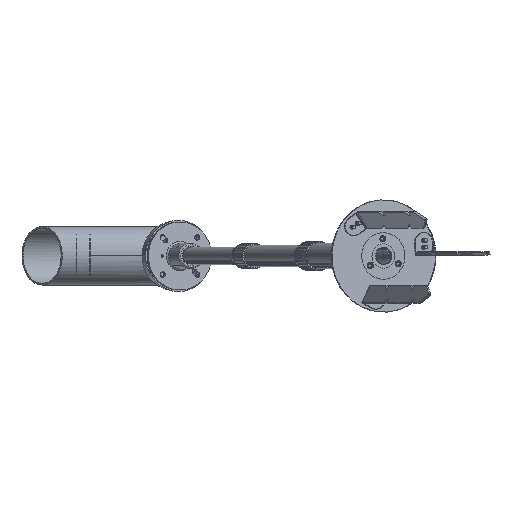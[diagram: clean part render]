
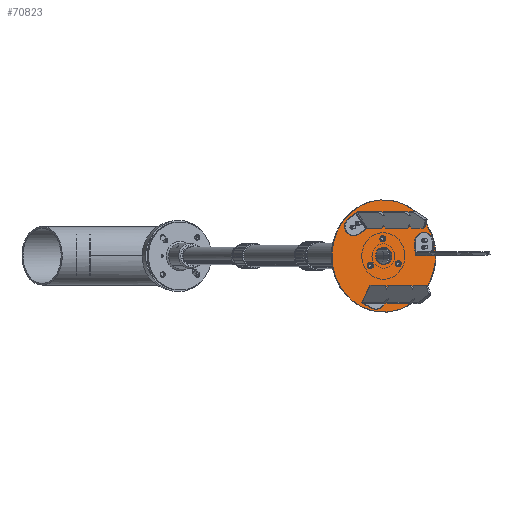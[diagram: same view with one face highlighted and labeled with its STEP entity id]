
A CAD part, front view. The second image highlights one B-rep face of the part: STEP entity #70823.
In plain terms, the highlighted planar face has unit normal (0.374, -0.927, 0) as drawn and (0, 0, 1) by its records, which use the part's own axes.
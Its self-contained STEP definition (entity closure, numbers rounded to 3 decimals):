
#70120=CARTESIAN_POINT('',(0.,0.,4.));
#70121=DIRECTION('',(0.,0.,-1.));
#70122=DIRECTION('',(1.,0.,0.));
#70123=AXIS2_PLACEMENT_3D('',#70120,#70121,#70122);
#70125=CARTESIAN_POINT('',(0.,0.,4.));
#70126=DIRECTION('',(0.,0.,-1.));
#70127=DIRECTION('',(-1.,0.,0.));
#70128=AXIS2_PLACEMENT_3D('',#70125,#70126,#70127);
#70130=CARTESIAN_POINT('',(-50.,-7.,4.));
#70131=DIRECTION('',(0.,0.,1.));
#70132=DIRECTION('',(1.,0.,0.));
#70133=AXIS2_PLACEMENT_3D('',#70130,#70131,#70132);
#70135=CARTESIAN_POINT('',(-50.,-7.,4.));
#70136=DIRECTION('',(0.,0.,1.));
#70137=DIRECTION('',(-1.,0.,0.));
#70138=AXIS2_PLACEMENT_3D('',#70135,#70136,#70137);
#70140=CARTESIAN_POINT('',(-50.,-15.,4.));
#70141=DIRECTION('',(0.,0.,1.));
#70142=DIRECTION('',(1.,0.,0.));
#70143=AXIS2_PLACEMENT_3D('',#70140,#70141,#70142);
#70145=CARTESIAN_POINT('',(-50.,-15.,4.));
#70146=DIRECTION('',(0.,0.,1.));
#70147=DIRECTION('',(-1.,0.,0.));
#70148=AXIS2_PLACEMENT_3D('',#70145,#70146,#70147);
#70150=CARTESIAN_POINT('',(31.062,-39.801,4.));
#70151=DIRECTION('',(0.,0.,1.));
#70152=DIRECTION('',(-0.5,0.866,0.));
#70153=AXIS2_PLACEMENT_3D('',#70150,#70151,#70152);
#70155=CARTESIAN_POINT('',(31.062,-39.801,4.));
#70156=DIRECTION('',(0.,0.,1.));
#70157=DIRECTION('',(0.5,-0.866,0.));
#70158=AXIS2_PLACEMENT_3D('',#70155,#70156,#70157);
#70160=CARTESIAN_POINT('',(37.99,-35.801,4.));
#70161=DIRECTION('',(0.,0.,1.));
#70162=DIRECTION('',(-0.5,0.866,0.));
#70163=AXIS2_PLACEMENT_3D('',#70160,#70161,#70162);
#70165=CARTESIAN_POINT('',(37.99,-35.801,4.));
#70166=DIRECTION('',(0.,0.,1.));
#70167=DIRECTION('',(0.5,-0.866,0.));
#70168=AXIS2_PLACEMENT_3D('',#70165,#70166,#70167);
#70170=CARTESIAN_POINT('',(18.938,46.801,4.));
#70171=DIRECTION('',(0.,0.,1.));
#70172=DIRECTION('',(-0.5,-0.866,0.));
#70173=AXIS2_PLACEMENT_3D('',#70170,#70171,#70172);
#70175=CARTESIAN_POINT('',(18.938,46.801,4.));
#70176=DIRECTION('',(0.,0.,1.));
#70177=DIRECTION('',(0.5,0.866,0.));
#70178=AXIS2_PLACEMENT_3D('',#70175,#70176,#70177);
#70180=CARTESIAN_POINT('',(12.01,50.801,4.));
#70181=DIRECTION('',(0.,0.,1.));
#70182=DIRECTION('',(-0.5,-0.866,0.));
#70183=AXIS2_PLACEMENT_3D('',#70180,#70181,#70182);
#70185=CARTESIAN_POINT('',(12.01,50.801,4.));
#70186=DIRECTION('',(0.,0.,1.));
#70187=DIRECTION('',(0.5,0.866,0.));
#70188=AXIS2_PLACEMENT_3D('',#70185,#70186,#70187);
#70190=CARTESIAN_POINT('',(0.,0.,4.));
#70191=DIRECTION('',(0.,0.,1.));
#70192=DIRECTION('',(-1.,0.,0.));
#70193=AXIS2_PLACEMENT_3D('',#70190,#70191,#70192);
#70195=CARTESIAN_POINT('',(0.,0.,4.));
#70196=DIRECTION('',(0.,0.,1.));
#70197=DIRECTION('',(1.,0.,0.));
#70198=AXIS2_PLACEMENT_3D('',#70195,#70196,#70197);
#70200=CARTESIAN_POINT('',(-17.321,10.,4.));
#70201=DIRECTION('',(0.,0.,1.));
#70202=DIRECTION('',(1.,0.,0.));
#70203=AXIS2_PLACEMENT_3D('',#70200,#70201,#70202);
#70205=CARTESIAN_POINT('',(-17.321,10.,4.));
#70206=DIRECTION('',(0.,0.,1.));
#70207=DIRECTION('',(-1.,0.,0.));
#70208=AXIS2_PLACEMENT_3D('',#70205,#70206,#70207);
#70210=CARTESIAN_POINT('',(17.321,10.,4.));
#70211=DIRECTION('',(0.,0.,1.));
#70212=DIRECTION('',(1.,0.,0.));
#70213=AXIS2_PLACEMENT_3D('',#70210,#70211,#70212);
#70215=CARTESIAN_POINT('',(17.321,10.,4.));
#70216=DIRECTION('',(0.,0.,1.));
#70217=DIRECTION('',(-1.,0.,0.));
#70218=AXIS2_PLACEMENT_3D('',#70215,#70216,#70217);
#70220=CARTESIAN_POINT('',(0.,-20.,4.));
#70221=DIRECTION('',(0.,0.,1.));
#70222=DIRECTION('',(1.,0.,0.));
#70223=AXIS2_PLACEMENT_3D('',#70220,#70221,#70222);
#70225=CARTESIAN_POINT('',(0.,-20.,4.));
#70226=DIRECTION('',(0.,0.,1.));
#70227=DIRECTION('',(-1.,0.,0.));
#70228=AXIS2_PLACEMENT_3D('',#70225,#70226,#70227);
#70550=CARTESIAN_POINT('',(65.,0.,4.));
#70551=CARTESIAN_POINT('',(-65.,0.,4.));
#70552=VERTEX_POINT('',#70550);
#70553=VERTEX_POINT('',#70551);
#70554=CARTESIAN_POINT('',(-47.75,-7.,4.));
#70555=CARTESIAN_POINT('',(-52.25,-7.,4.));
#70556=VERTEX_POINT('',#70554);
#70557=VERTEX_POINT('',#70555);
#70558=CARTESIAN_POINT('',(-47.75,-15.,4.));
#70559=CARTESIAN_POINT('',(-52.25,-15.,4.));
#70560=VERTEX_POINT('',#70558);
#70561=VERTEX_POINT('',#70559);
#70562=CARTESIAN_POINT('',(29.937,-37.853,4.));
#70563=CARTESIAN_POINT('',(32.187,-41.75,4.));
#70564=VERTEX_POINT('',#70562);
#70565=VERTEX_POINT('',#70563);
#70566=CARTESIAN_POINT('',(36.865,-33.853,4.));
#70567=CARTESIAN_POINT('',(39.115,-37.75,4.));
#70568=VERTEX_POINT('',#70566);
#70569=VERTEX_POINT('',#70567);
#70570=CARTESIAN_POINT('',(17.813,44.853,4.));
#70571=CARTESIAN_POINT('',(20.063,48.75,4.));
#70572=VERTEX_POINT('',#70570);
#70573=VERTEX_POINT('',#70571);
#70574=CARTESIAN_POINT('',(10.885,48.853,4.));
#70575=CARTESIAN_POINT('',(13.135,52.75,4.));
#70576=VERTEX_POINT('',#70574);
#70577=VERTEX_POINT('',#70575);
#70578=CARTESIAN_POINT('',(-10.,0.,4.));
#70579=CARTESIAN_POINT('',(10.,0.,4.));
#70580=VERTEX_POINT('',#70578);
#70581=VERTEX_POINT('',#70579);
#70582=CARTESIAN_POINT('',(-14.571,10.,4.));
#70583=CARTESIAN_POINT('',(-20.071,10.,4.));
#70584=VERTEX_POINT('',#70582);
#70585=VERTEX_POINT('',#70583);
#70586=CARTESIAN_POINT('',(20.071,10.,4.));
#70587=CARTESIAN_POINT('',(14.571,10.,4.));
#70588=VERTEX_POINT('',#70586);
#70589=VERTEX_POINT('',#70587);
#70590=CARTESIAN_POINT('',(2.75,-20.,4.));
#70591=CARTESIAN_POINT('',(-2.75,-20.,4.));
#70592=VERTEX_POINT('',#70590);
#70593=VERTEX_POINT('',#70591);
#70753=CARTESIAN_POINT('',(0.,0.,4.));
#70754=DIRECTION('',(0.,0.,1.));
#70755=DIRECTION('',(1.,0.,0.));
#70756=AXIS2_PLACEMENT_3D('',#70753,#70754,#70755);
#70757=PLANE('',#70756);
#70758=ORIENTED_EDGE('',*,*,#70743,.T.);
#70760=ORIENTED_EDGE('',*,*,#70759,.T.);
#70761=EDGE_LOOP('',(#70758,#70760));
#70762=FACE_OUTER_BOUND('',#70761,.F.);
#70764=ORIENTED_EDGE('',*,*,#70763,.T.);
#70766=ORIENTED_EDGE('',*,*,#70765,.T.);
#70767=EDGE_LOOP('',(#70764,#70766));
#70768=FACE_BOUND('',#70767,.F.);
#70770=ORIENTED_EDGE('',*,*,#70769,.T.);
#70772=ORIENTED_EDGE('',*,*,#70771,.T.);
#70773=EDGE_LOOP('',(#70770,#70772));
#70774=FACE_BOUND('',#70773,.F.);
#70776=ORIENTED_EDGE('',*,*,#70775,.T.);
#70778=ORIENTED_EDGE('',*,*,#70777,.T.);
#70779=EDGE_LOOP('',(#70776,#70778));
#70780=FACE_BOUND('',#70779,.F.);
#70782=ORIENTED_EDGE('',*,*,#70781,.T.);
#70784=ORIENTED_EDGE('',*,*,#70783,.T.);
#70785=EDGE_LOOP('',(#70782,#70784));
#70786=FACE_BOUND('',#70785,.F.);
#70788=ORIENTED_EDGE('',*,*,#70787,.T.);
#70790=ORIENTED_EDGE('',*,*,#70789,.T.);
#70791=EDGE_LOOP('',(#70788,#70790));
#70792=FACE_BOUND('',#70791,.F.);
#70794=ORIENTED_EDGE('',*,*,#70793,.T.);
#70796=ORIENTED_EDGE('',*,*,#70795,.T.);
#70797=EDGE_LOOP('',(#70794,#70796));
#70798=FACE_BOUND('',#70797,.F.);
#70800=ORIENTED_EDGE('',*,*,#70799,.T.);
#70802=ORIENTED_EDGE('',*,*,#70801,.T.);
#70803=EDGE_LOOP('',(#70800,#70802));
#70804=FACE_BOUND('',#70803,.F.);
#70806=ORIENTED_EDGE('',*,*,#70805,.T.);
#70808=ORIENTED_EDGE('',*,*,#70807,.T.);
#70809=EDGE_LOOP('',(#70806,#70808));
#70810=FACE_BOUND('',#70809,.F.);
#70812=ORIENTED_EDGE('',*,*,#70811,.T.);
#70814=ORIENTED_EDGE('',*,*,#70813,.T.);
#70815=EDGE_LOOP('',(#70812,#70814));
#70816=FACE_BOUND('',#70815,.F.);
#70818=ORIENTED_EDGE('',*,*,#70817,.T.);
#70820=ORIENTED_EDGE('',*,*,#70819,.T.);
#70821=EDGE_LOOP('',(#70818,#70820));
#70822=FACE_BOUND('',#70821,.F.);
#70823=ADVANCED_FACE('',(#70762,#70768,#70774,#70780,#70786,#70792,#70798,
#70804,#70810,#70816,#70822),#70757,.T.);
#70124=CIRCLE('',#70123,65.);
#70129=CIRCLE('',#70128,65.);
#70134=CIRCLE('',#70133,2.25);
#70139=CIRCLE('',#70138,2.25);
#70144=CIRCLE('',#70143,2.25);
#70149=CIRCLE('',#70148,2.25);
#70154=CIRCLE('',#70153,2.25);
#70159=CIRCLE('',#70158,2.25);
#70164=CIRCLE('',#70163,2.25);
#70169=CIRCLE('',#70168,2.25);
#70174=CIRCLE('',#70173,2.25);
#70179=CIRCLE('',#70178,2.25);
#70184=CIRCLE('',#70183,2.25);
#70189=CIRCLE('',#70188,2.25);
#70194=CIRCLE('',#70193,10.);
#70199=CIRCLE('',#70198,10.);
#70204=CIRCLE('',#70203,2.75);
#70209=CIRCLE('',#70208,2.75);
#70214=CIRCLE('',#70213,2.75);
#70219=CIRCLE('',#70218,2.75);
#70224=CIRCLE('',#70223,2.75);
#70229=CIRCLE('',#70228,2.75);
#70743=EDGE_CURVE('',#70552,#70553,#70124,.T.);
#70759=EDGE_CURVE('',#70553,#70552,#70129,.T.);
#70763=EDGE_CURVE('',#70556,#70557,#70134,.T.);
#70765=EDGE_CURVE('',#70557,#70556,#70139,.T.);
#70769=EDGE_CURVE('',#70560,#70561,#70144,.T.);
#70771=EDGE_CURVE('',#70561,#70560,#70149,.T.);
#70775=EDGE_CURVE('',#70564,#70565,#70154,.T.);
#70777=EDGE_CURVE('',#70565,#70564,#70159,.T.);
#70781=EDGE_CURVE('',#70568,#70569,#70164,.T.);
#70783=EDGE_CURVE('',#70569,#70568,#70169,.T.);
#70787=EDGE_CURVE('',#70572,#70573,#70174,.T.);
#70789=EDGE_CURVE('',#70573,#70572,#70179,.T.);
#70793=EDGE_CURVE('',#70576,#70577,#70184,.T.);
#70795=EDGE_CURVE('',#70577,#70576,#70189,.T.);
#70799=EDGE_CURVE('',#70580,#70581,#70194,.T.);
#70801=EDGE_CURVE('',#70581,#70580,#70199,.T.);
#70805=EDGE_CURVE('',#70584,#70585,#70204,.T.);
#70807=EDGE_CURVE('',#70585,#70584,#70209,.T.);
#70811=EDGE_CURVE('',#70588,#70589,#70214,.T.);
#70813=EDGE_CURVE('',#70589,#70588,#70219,.T.);
#70817=EDGE_CURVE('',#70592,#70593,#70224,.T.);
#70819=EDGE_CURVE('',#70593,#70592,#70229,.T.);
